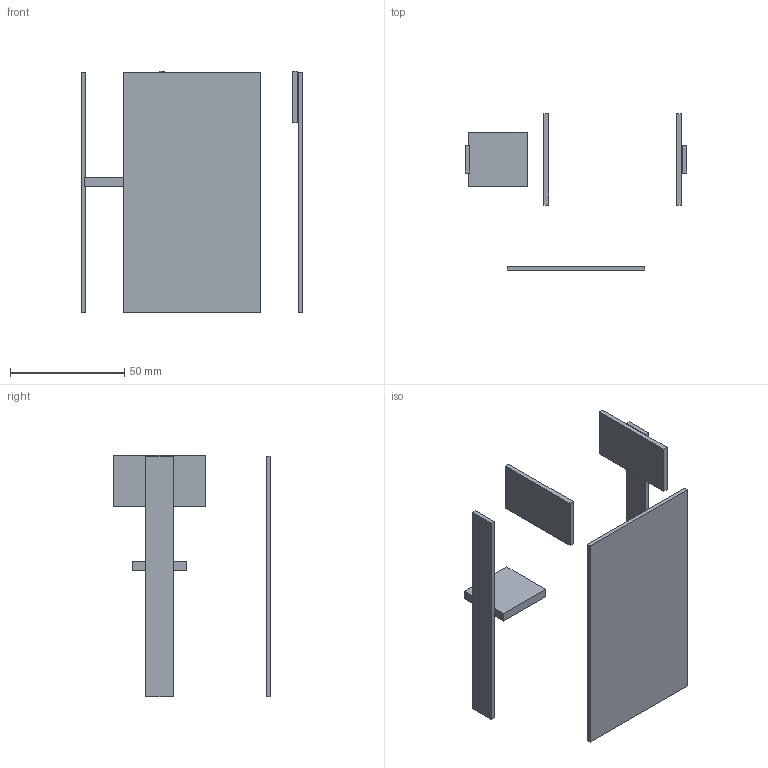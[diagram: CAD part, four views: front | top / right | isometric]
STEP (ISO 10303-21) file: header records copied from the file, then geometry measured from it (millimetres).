
FILE_DESCRIPTION(('Open CASCADE Model'),'2;1');
FILE_NAME('reinforce','2026-08-12T02:42:45',('Author'),('Open CASCADE'), 'Open CASCADE STEP processor 7.9','build123d','Unknown');
FILE_SCHEMA(('AUTOMOTIVE_DESIGN { 1 0 10303 214 1 1 1 1 }'));
Length unit declared in the file: millimetre
Products named in the file (7): reinforce; COMPOUND
Assembly tree (6 placements, depth 2):
  reinforce
    COMPOUND
    COMPOUND
    COMPOUND
    COMPOUND
    COMPOUND
    COMPOUND
Bounding box: 97 x 68.4 x 105.5 mm (x, y, z)
Volume: 21342 mm3; surface area: 24791.4 mm2
Topology: 6 solids, 6 shells, 36 faces, 72 edges, 48 vertices
Faces by surface type: plane 36
Entity records: 1960 total; most frequent: CARTESIAN_POINT 307, DIRECTION 302, LINE 216, VECTOR 216, ORIENTED_EDGE 144, PCURVE 144, DEFINITIONAL_REPRESENTATION 144, EDGE_CURVE 72
